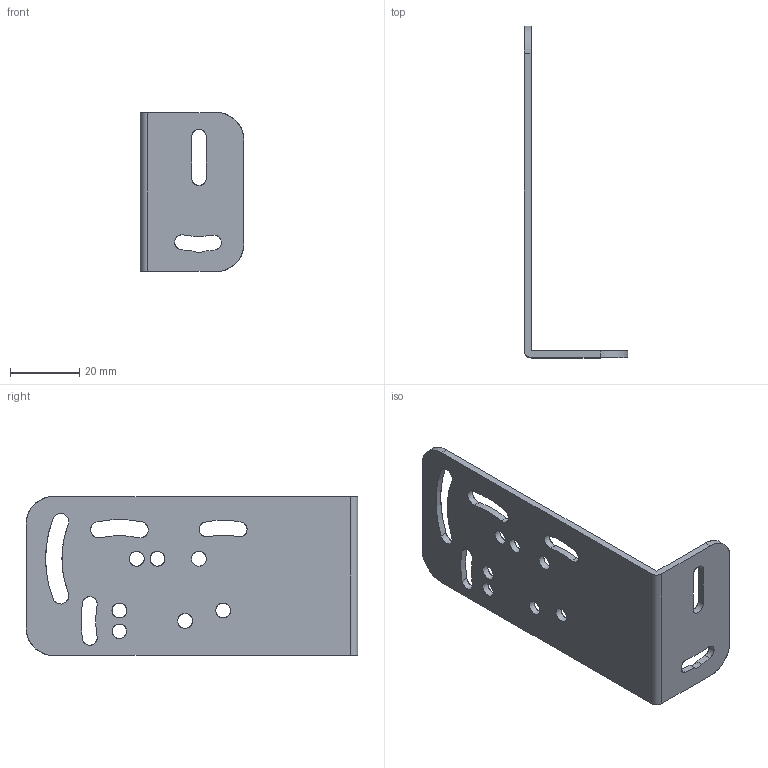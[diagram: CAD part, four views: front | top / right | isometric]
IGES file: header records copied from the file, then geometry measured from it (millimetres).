
Global section: file name: E:\lem\3DCAD_BT300M_5.igs; native system: NX V8.5; preprocessor: SIEMENS PLM Software NX 8.5; date: 20170220.160948; units: millimetre
Bounding box: 30 x 96 x 46 mm (x, y, z)
Surface area: 11504.6 mm2 (no closed solid volume)
Topology: 0 solids, 0 shells, 47 faces, 661 edges, 831 vertices
Faces by surface type: bspline 47
